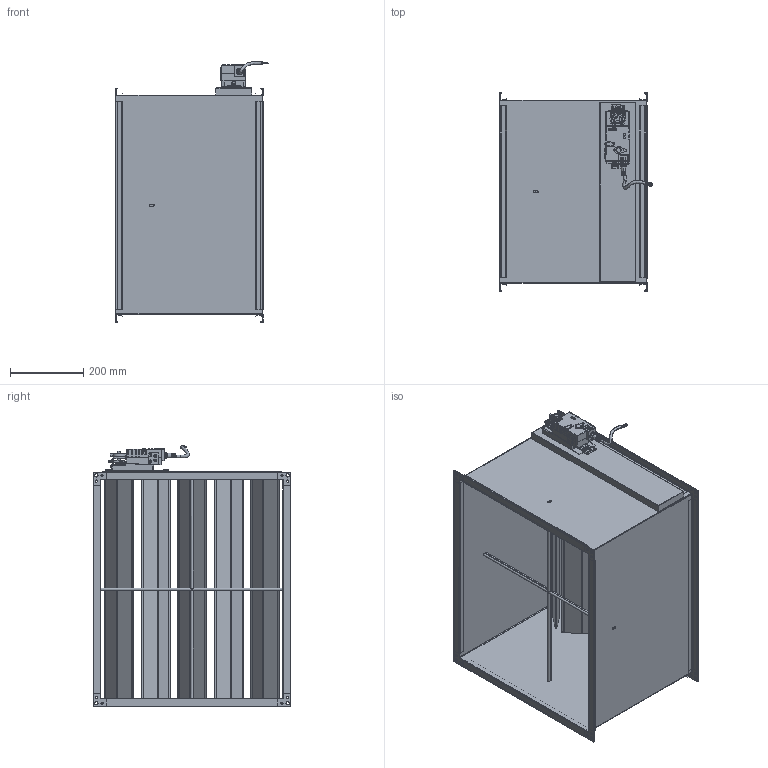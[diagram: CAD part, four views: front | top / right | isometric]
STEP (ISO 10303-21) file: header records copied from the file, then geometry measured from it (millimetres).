
FILE_DESCRIPTION (( 'STEP AP214' ), '1' );
FILE_NAME ('VAV-S600500.STEP', '2025-05-08T11:39:50', ( '' ), ( '' ), 'SwSTEP 2.0', 'SolidWorks 2025', '' );
FILE_SCHEMA (( 'AUTOMOTIVE_DESIGN' ));
Length unit declared in the file: millimetre
Products named in the file (1): VAV-S600500
Bounding box: 420.3 x 541 x 713.69 mm (x, y, z)
Surface area: 3382949.3 mm2 (no closed solid volume)
Topology: 0 solids, 48 shells, 2094 faces, 5473 edges, 3484 vertices
Faces by surface type: plane 1539, cylinder 502, bspline 24, sphere 18, cone 10, torus 1
Full cylindrical faces by diameter (mm): 1 x4, 6 x17, 8 x1, 9 x8, 11 x1, 20 x1, 21 x2
Entity records: 91954 total; most frequent: CARTESIAN_POINT 41608, ORIENTED_EDGE 10729, DIRECTION 6908, EDGE_CURVE 5388, VERTEX_POINT 3457, B_SPLINE_CURVE_WITH_KNOTS 3170, AXIS2_PLACEMENT_3D 2631, EDGE_LOOP 2300
